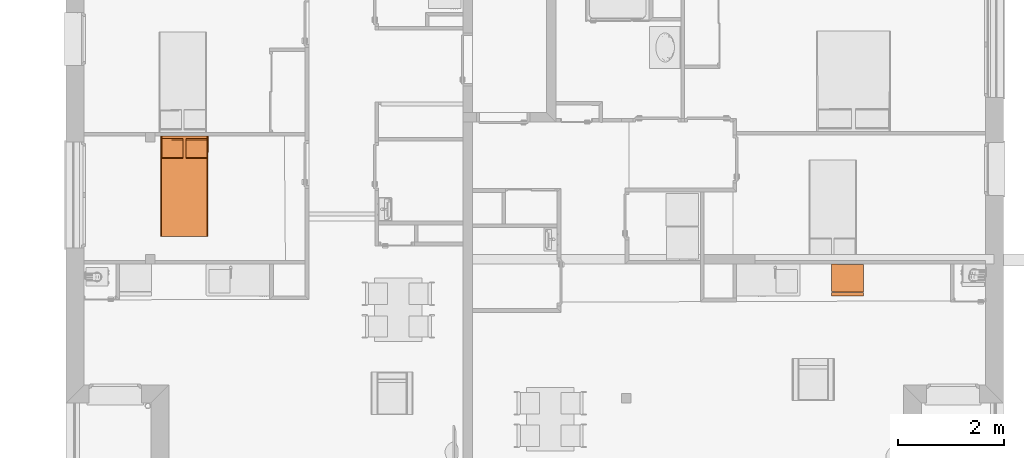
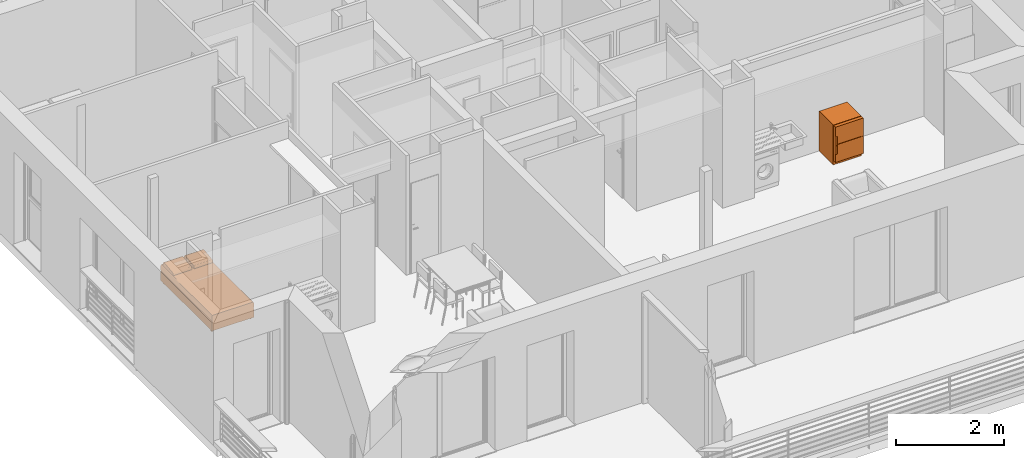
# One storey, part 148 of 171: 2 proxies.
"""IFC2X3 building model written with IfcOpenShell, lengths in millimetres."""

from ifc_helpers import new_model, entity, si_unit, converted_unit, derived_unit, money_unit, direction, frame, origin_with_axes, place, context, subcontext, project, spatial, open_shell, faceted_brep, surface_model, source, transform, mapped, type_object, element, save


model = new_model("IFC2X3")

# Units and contexts
model_context = context("Model", 3, precision=0.01, world=origin_with_axes(), true_north=direction((0.0, 1.0)))
body_context = subcontext(model_context, "Body", "Model", "MODEL_VIEW")
ifc_project = project(units=[si_unit("LENGTHUNIT", "METRE", prefix="MILLI"), si_unit("AREAUNIT", "SQUARE_METRE"), si_unit("VOLUMEUNIT", "CUBIC_METRE"), converted_unit("PLANEANGLEUNIT", "DEGREE", entity("IfcPlaneAngleMeasure", 0.0174532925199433), si_unit("PLANEANGLEUNIT", "RADIAN"), dimensions=[0, 0, 0, 0, 0, 0, 0]), money_unit("USD"), converted_unit("TIMEUNIT", "Year", entity("IfcTimeMeasure", 31557600.0), si_unit("TIMEUNIT", "SECOND"), dimensions=[0, 0, 1, 0, 0, 0, 0]), si_unit("MASSUNIT", "GRAM", prefix="KILO"), si_unit("THERMODYNAMICTEMPERATUREUNIT", "DEGREE_CELSIUS"), si_unit("LUMINOUSINTENSITYUNIT", "LUMEN"), si_unit("ENERGYUNIT", "JOULE", prefix="MEGA"), derived_unit("THERMALCONDUCTANCEUNIT", [(si_unit("POWERUNIT", "WATT"), 1), (si_unit("LENGTHUNIT", "METRE"), -1), (si_unit("THERMODYNAMICTEMPERATUREUNIT", "KELVIN"), -1)]), derived_unit("SPECIFICHEATCAPACITYUNIT", [(si_unit("ENERGYUNIT", "JOULE"), 1), (si_unit("MASSUNIT", "GRAM", prefix="KILO"), -1), (si_unit("THERMODYNAMICTEMPERATUREUNIT", "KELVIN"), -1)]), derived_unit("MASSDENSITYUNIT", [(si_unit("MASSUNIT", "GRAM", prefix="KILO"), 1), (si_unit("VOLUMEUNIT", "CUBIC_METRE"), -1)])], contexts=[model_context])

# Site, building, storey
site_placement = place(None, origin_with_axes())
site = spatial("IfcSite", under=ifc_project, at=site_placement, Name="Site", CompositionType="ELEMENT")
building_placement = place(site_placement, origin_with_axes())
building = spatial("IfcBuilding", under=site, at=building_placement, Name="Bâtiment", CompositionType="ELEMENT")
storey_placement = place(building_placement, frame((0.0, 0.0, 3000.0), z_axis=(0.0, 0.0, 1.0), x_axis=(1.0, 0.0, 0.0)))
storey = spatial("IfcBuildingStorey", under=building, at=storey_placement, Name="rdc", CompositionType="ELEMENT", Elevation=3000.0)

# Proxies
building_element_proxy_type = type_object("IfcBuildingElementProxyType", PredefinedType="NOTDEFINED")
shared_shape_1 = source(origin_with_axes(), body_context, "Body", "SurfaceModel", [
    faceted_brep([(0.0, 80.0, 100.0), (0.0, 80.0, 900.0), (-600.0, 80.0, 900.0), (-600.0, 80.0, 100.0), (0.0, 600.0, 100.0), (0.0, 600.0, 900.0), (-600.0, 600.0, 900.0), (-600.0, 600.0, 100.0)], [[[0, 1, 2, 3]], [[4, 5, 1, 0]], [[1, 5, 6, 2]], [[3, 2, 6, 7]], [[0, 3, 7, 4]], [[7, 6, 5, 4]]]),
    faceted_brep([(0.0, 80.0, 0.0), (0.0, 80.0, 100.0), (-600.0, 80.0, 100.0), (-600.0, 80.0, 0.0), (0.0, 600.0, 0.0), (0.0, 600.0, 100.0), (-600.0, 600.0, 100.0), (-600.0, 600.0, 0.0)], [[[0, 1, 2, 3]], [[4, 5, 1, 0]], [[1, 5, 6, 2]], [[3, 2, 6, 7]], [[0, 3, 7, 4]], [[7, 6, 5, 4]]]),
    faceted_brep([(0.0, 70.0, 100.0), (0.0, 0.0, 100.0), (-600.0, 0.0, 100.0), (-600.0, 70.0, 100.0), (0.0, 70.00000000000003, 494.0), (0.0, 0.0, 494.0), (-600.0, 0.0, 494.0), (-600.0, 70.00000000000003, 494.0)], [[[0, 1, 2, 3]], [[4, 5, 1, 0]], [[1, 5, 6, 2]], [[3, 2, 6, 7]], [[0, 3, 7, 4]], [[7, 6, 5, 4]]]),
    faceted_brep([(0.0, 70.0, 500.0), (0.0, 0.0, 500.0), (-600.0, 0.0, 500.0), (-600.0, 70.0, 500.0), (0.0, 70.00000000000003, 900.0), (0.0, 0.0, 900.0), (-600.0, 0.0, 900.0), (-600.0, 70.00000000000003, 900.0)], [[[0, 1, 2, 3]], [[4, 5, 1, 0]], [[1, 5, 6, 2]], [[3, 2, 6, 7]], [[0, 3, 7, 4]], [[7, 6, 5, 4]]]),
    surface_model("IfcShellBasedSurfaceModel", [(-600.0, -30.0, 300.0000000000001), (-600.0, 0.0, 300.0000000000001), (-600.0, 0.0, 494.0000000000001), (-600.0, -30.0, 494.0000000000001)], [open_shell([[[0, 1, 2, 3]]])]),
    surface_model("IfcShellBasedSurfaceModel", [(-600.0, -30.0, 300.0000000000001), (-570.0, -30.0, 300.0000000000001), (-570.0, -30.0, 494.0000000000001), (-600.0, -30.0, 494.0000000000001)], [open_shell([[[0, 1, 2, 3]]])]),
    surface_model("IfcShellBasedSurfaceModel", [(-600.0, -30.0, 500.0), (-600.0, 0.0, 500.0), (-600.0, 0.0, 700.0), (-600.0, -30.0, 700.0)], [open_shell([[[0, 1, 2, 3]]])]),
    surface_model("IfcShellBasedSurfaceModel", [(-600.0, -30.0, 500.0), (-570.0, -30.0, 500.0), (-570.0, -30.0, 700.0), (-600.0, -30.0, 700.0)], [open_shell([[[0, 1, 2, 3]]])]),
])
proxy_1_placement = place(storey_placement, frame((2231705.292395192, -653016.058235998, 0.0), z_axis=(0.0, 0.0, 1.0), x_axis=(0.9999965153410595, -0.002639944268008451, 0.0)))
element("IfcBuildingElementProxy", 1, at=proxy_1_placement, inside=storey, type_object=building_element_proxy_type, Name="Obj.-019", context=body_context, shape_type="MappedRepresentation", body=[
    mapped(shared_shape_1, transform((0.0, 0.0, 0.0))),
])
shared_shape_2 = source(origin_with_axes(), body_context, "Body", "SurfaceModel", [
    faceted_brep([(400.0, -95.0, 0.0), (400.0, -47.5, 0.0), (425.0000000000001, -47.5, 0.0), (425.0000000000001, -95.0, 0.0), (400.0, -95.0, 50.0), (400.0, -47.5, 50.0), (425.0000000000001, -47.5, 50.0), (425.0000000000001, -95.0, 50.0)], [[[0, 1, 2, 3]], [[0, 4, 5, 1]], [[1, 5, 6, 2]], [[2, 6, 7, 3]], [[3, 7, 4, 0]], [[7, 6, 5, 4]]]),
    faceted_brep([(400.0, -1852.5, 0.0), (400.0, -1805.0, 0.0), (425.0000000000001, -1805.0, 0.0), (425.0000000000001, -1852.5, 0.0), (400.0, -1852.5, 50.0), (400.0, -1805.0, 50.0), (425.0000000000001, -1805.0, 50.0), (425.0000000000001, -1852.5, 50.0)], [[[0, 1, 2, 3]], [[0, 4, 5, 1]], [[1, 5, 6, 2]], [[2, 6, 7, 3]], [[3, 7, 4, 0]], [[7, 6, 5, 4]]]),
    faceted_brep([(-425.0000000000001, -1852.5, 0.0), (-425.0000000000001, -1805.0, 0.0), (-400.0, -1805.0, 0.0), (-400.0, -1852.5, 0.0), (-425.0000000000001, -1852.5, 50.0), (-425.0000000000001, -1805.0, 50.0), (-400.0, -1805.0, 50.0), (-400.0, -1852.5, 50.0)], [[[0, 1, 2, 3]], [[0, 4, 5, 1]], [[1, 5, 6, 2]], [[2, 6, 7, 3]], [[3, 7, 4, 0]], [[7, 6, 5, 4]]]),
    faceted_brep([(-425.0000000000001, -94.99999999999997, 0.0), (-425.0000000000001, -47.49999999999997, 0.0), (-400.0, -47.49999999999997, 0.0), (-400.0, -94.99999999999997, 0.0), (-425.0000000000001, -94.99999999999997, 50.0), (-425.0000000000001, -47.49999999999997, 50.0), (-400.0, -47.49999999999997, 50.0), (-400.0, -94.99999999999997, 50.0)], [[[0, 1, 2, 3]], [[0, 4, 5, 1]], [[1, 5, 6, 2]], [[2, 6, 7, 3]], [[3, 7, 4, 0]], [[7, 6, 5, 4]]]),
    faceted_brep([(450.0, 0.0, 50.0), (450.0, -1900.0, 50.00000000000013), (-450.0, -1900.0, 50.00000000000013), (-450.0, 0.0, 50.0), (450.0, 0.0, 250.0), (450.0, -1900.0, 250.0000000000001), (-450.0, -1900.0, 250.0000000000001), (-450.0, 0.0, 250.0)], [[[0, 1, 2, 3]], [[4, 5, 1, 0]], [[1, 5, 6, 2]], [[3, 2, 6, 7]], [[0, 3, 7, 4]], [[7, 6, 5, 4]]]),
    surface_model("IfcShellBasedSurfaceModel", [(-425.0000000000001, 0.0, 250.0), (-425.0000000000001, -1900.0, 250.0000000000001), (-429.3412044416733, -1900.0, 250.7596123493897), (-429.3412044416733, 0.0, 250.7596123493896), (425.0000000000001, -1900.0, 250.0000000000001), (429.3412044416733, -1900.0, 250.7596123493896), (433.5505035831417, -1900.0, 253.0153689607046), (437.5, -1900.0, 256.6987298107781), (441.0696902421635, -1900.0, 261.6977778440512), (444.1511110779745, -1900.0, 267.8606195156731), (446.650635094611, -1900.0, 275.0000000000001), (448.4923155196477, -1900.0, 282.8989928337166), (449.6201938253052, -1900.0, 291.3175911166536), (450.0, -1900.0, 300.0000000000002), (450.0000000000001, -1900.0, 350.0000000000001), (449.6201938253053, -1900.0, 358.6824088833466), (448.4923155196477, -1900.0, 367.1010071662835), (446.650635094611, -1900.0, 375.0000000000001), (444.1511110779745, -1900.0, 382.1393804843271), (441.0696902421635, -1900.0, 388.302222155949), (437.5000000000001, -1900.0, 393.3012701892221), (433.5505035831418, -1900.0, 396.9846310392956), (429.3412044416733, -1900.0, 399.2403876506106), (425.0000000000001, -1900.0, 400.0000000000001), (-425.0, -1900.0, 400.0000000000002), (-429.3412044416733, -1900.0, 399.2403876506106), (-433.5505035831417, -1900.0, 396.9846310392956), (-437.5, -1900.0, 393.3012701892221), (-441.0696902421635, -1900.0, 388.302222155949), (-444.1511110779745, -1900.0, 382.1393804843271), (-446.6506350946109, -1900.0, 375.0000000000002), (-448.4923155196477, -1900.0, 367.1010071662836), (-449.6201938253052, -1900.0, 358.6824088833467), (-450.0, -1900.0, 350.0000000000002), (-450.0, -1900.0, 300.0000000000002), (-449.6201938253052, -1900.0, 291.3175911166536), (-448.4923155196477, -1900.0, 282.8989928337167), (-446.650635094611, -1900.0, 275.0000000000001), (-444.1511110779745, -1900.0, 267.8606195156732), (-441.0696902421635, -1900.0, 261.6977778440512), (-437.5000000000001, -1900.0, 256.6987298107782), (-433.5505035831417, -1900.0, 253.0153689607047), (-433.5505035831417, 0.0, 253.0153689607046), (425.0000000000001, 0.0, 250.0), (-437.5000000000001, 0.0, 256.698729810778), (-441.0696902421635, 0.0, 261.6977778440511), (-444.1511110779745, 0.0, 267.8606195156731), (-446.650635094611, 0.0, 275.0), (-448.4923155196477, 0.0, 282.8989928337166), (-449.6201938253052, 0.0, 291.3175911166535), (-450.0, 0.0, 300.0000000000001), (-450.0, 0.0, 350.0000000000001), (-449.6201938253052, 0.0, 358.6824088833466), (-448.4923155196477, 0.0, 367.1010071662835), (-446.6506350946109, 0.0, 375.0000000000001), (-444.1511110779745, 0.0, 382.139380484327), (-441.0696902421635, 0.0, 388.3022221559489), (-437.5, 0.0, 393.301270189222), (-433.5505035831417, 0.0, 396.9846310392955), (-429.3412044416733, 0.0, 399.2403876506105), (-425.0, 0.0, 400.0000000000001), (425.0000000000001, 0.0, 400.0), (429.3412044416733, 0.0, 399.2403876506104), (433.5505035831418, 0.0, 396.9846310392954), (437.5000000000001, 0.0, 393.301270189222), (441.0696902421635, 0.0, 388.3022221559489), (444.1511110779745, 0.0, 382.139380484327), (446.650635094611, 0.0, 375.0), (448.4923155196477, 0.0, 367.1010071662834), (449.6201938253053, 0.0, 358.6824088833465), (450.0000000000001, 0.0, 350.0), (450.0, 0.0, 300.0000000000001), (449.6201938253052, 0.0, 291.3175911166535), (448.4923155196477, 0.0, 282.8989928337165), (446.650635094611, 0.0, 275.0), (444.1511110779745, 0.0, 267.860619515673), (441.0696902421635, 0.0, 261.6977778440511), (437.5, 0.0, 256.698729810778), (433.5505035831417, 0.0, 253.0153689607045), (429.3412044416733, 0.0, 250.7596123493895)], [open_shell([[[0, 1, 2, 3]], [[4, 5, 6, 7, 8, 9, 10, 11, 12, 13, 14, 15, 16, 17, 18, 19, 20, 21, 22, 23, 24, 25, 26, 27, 28, 29, 30, 31, 32, 33, 34, 35, 36, 37, 38, 39, 40, 41, 2, 1]], [[3, 2, 41, 42]], [[43, 0, 3, 42, 44, 45, 46, 47, 48, 49, 50, 51, 52, 53, 54, 55, 56, 57, 58, 59, 60, 61, 62, 63, 64, 65, 66, 67, 68, 69, 70, 71, 72, 73, 74, 75, 76, 77, 78, 79]], [[79, 5, 4, 43]], [[78, 6, 5, 79]], [[77, 7, 6, 78]], [[76, 8, 7, 77]], [[75, 9, 8, 76]], [[74, 10, 9, 75]], [[73, 11, 10, 74]], [[72, 12, 11, 73]], [[71, 13, 12, 72]], [[70, 14, 13, 71]], [[69, 15, 14, 70]], [[68, 16, 15, 69]], [[67, 17, 16, 68]], [[66, 18, 17, 67]], [[65, 19, 18, 66]], [[64, 20, 19, 65]], [[63, 21, 20, 64]], [[62, 22, 21, 63]], [[61, 23, 22, 62]], [[60, 24, 23, 61]], [[59, 25, 24, 60]], [[58, 26, 25, 59]], [[57, 27, 26, 58]], [[56, 28, 27, 57]], [[55, 29, 28, 56]], [[54, 30, 29, 55]], [[53, 31, 30, 54]], [[52, 32, 31, 53]], [[51, 33, 32, 52]], [[50, 34, 33, 51]], [[49, 35, 34, 50]], [[48, 36, 35, 49]], [[47, 37, 36, 48]], [[46, 38, 37, 47]], [[45, 39, 38, 46]], [[44, 40, 39, 45]], [[42, 41, 40, 44]]])]),
    faceted_brep([(-24.99999999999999, -47.49999999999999, 400.0), (-425.0, -47.50000000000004, 400.0000000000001), (-425.0, -47.50000000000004, 443.4000000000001), (-24.99999999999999, -47.49999999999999, 443.4), (-24.99999999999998, -427.5, 400.0), (-425.0, -427.5, 400.0000000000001), (-425.0, -427.6960812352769, 408.6954428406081), (-425.0, -426.4675711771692, 417.2966661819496), (-425.0, -423.8511300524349, 425.5469991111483), (-425.0, -419.924835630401, 433.2002417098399), (-425.0, -414.8058532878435, 440.0280119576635), (-425.0, -408.6469396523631, 445.826560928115), (-425.0, -401.6318841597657, 450.4228529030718), (-425.0, -393.9700245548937, 453.6797289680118), (-425.0, -385.89, 455.5000000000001), (-425.0, -100.8900000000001, 493.0000000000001), (-425.0, -92.85488048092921, 493.3370808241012), (-425.0, -84.88093291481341, 492.2422169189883), (-425.0, -77.19681007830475, 489.7468034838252), (-425.0, -70.02285403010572, 485.922396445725), (-425.0, -63.56477780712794, 480.878660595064), (-425.0, -58.00776660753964, 474.7602249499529), (-425.0, -53.51116760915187, 467.7425355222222), (-425.0, -50.20392069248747, 460.0268244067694), (-425.0, -48.18086109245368, 451.8343394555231), (-24.99999999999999, -48.18086109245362, 451.834339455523), (-24.99999999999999, -50.20392069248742, 460.0268244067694), (-24.99999999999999, -53.51116760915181, 467.7425355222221), (-24.99999999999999, -58.00776660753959, 474.7602249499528), (-24.99999999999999, -63.56477780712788, 480.878660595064), (-24.99999999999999, -70.02285403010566, 485.922396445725), (-24.99999999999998, -77.19681007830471, 489.7468034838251), (-24.99999999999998, -84.88093291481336, 492.2422169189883), (-24.99999999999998, -92.85488048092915, 493.3370808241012), (-24.99999999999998, -100.89, 493.0000000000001), (-24.99999999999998, -385.89, 455.5), (-24.99999999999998, -393.9700245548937, 453.6797289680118), (-24.99999999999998, -401.6318841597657, 450.4228529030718), (-24.99999999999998, -408.6469396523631, 445.826560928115), (-24.99999999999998, -414.8058532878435, 440.0280119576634), (-24.99999999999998, -419.9248356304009, 433.2002417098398), (-24.99999999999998, -423.8511300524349, 425.5469991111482), (-24.99999999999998, -426.4675711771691, 417.2966661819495), (-24.99999999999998, -427.6960812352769, 408.695442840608)], [[[0, 1, 2, 3]], [[4, 5, 1, 0]], [[1, 5, 6, 7, 8, 9, 10, 11, 12, 13, 14, 15, 16, 17, 18, 19, 20, 21, 22, 23, 24, 2]], [[3, 2, 24, 25]], [[0, 3, 25, 26, 27, 28, 29, 30, 31, 32, 33, 34, 35, 36, 37, 38, 39, 40, 41, 42, 43, 4]], [[43, 6, 5, 4]], [[42, 7, 6, 43]], [[41, 8, 7, 42]], [[40, 9, 8, 41]], [[39, 10, 9, 40]], [[38, 11, 10, 39]], [[37, 12, 11, 38]], [[36, 13, 12, 37]], [[35, 14, 13, 36]], [[34, 15, 14, 35]], [[33, 16, 15, 34]], [[32, 17, 16, 33]], [[31, 18, 17, 32]], [[30, 19, 18, 31]], [[29, 20, 19, 30]], [[28, 21, 20, 29]], [[27, 22, 21, 28]], [[26, 23, 22, 27]], [[25, 24, 23, 26]]]),
    faceted_brep([(425.0000000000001, -47.49999999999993, 399.9999999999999), (25.00000000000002, -47.49999999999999, 400.0), (25.00000000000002, -47.49999999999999, 443.4), (425.0000000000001, -47.49999999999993, 443.4), (425.0000000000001, -427.4999999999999, 399.9999999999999), (25.00000000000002, -427.4999999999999, 400.0), (25.00000000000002, -427.6960812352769, 408.695442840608), (25.00000000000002, -426.4675711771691, 417.2966661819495), (25.00000000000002, -423.8511300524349, 425.5469991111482), (25.00000000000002, -419.9248356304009, 433.2002417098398), (25.00000000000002, -414.8058532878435, 440.0280119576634), (25.00000000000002, -408.6469396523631, 445.826560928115), (25.00000000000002, -401.6318841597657, 450.4228529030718), (25.00000000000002, -393.9700245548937, 453.6797289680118), (25.00000000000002, -385.8899999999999, 455.5), (25.00000000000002, -100.89, 493.0000000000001), (25.00000000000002, -92.85488048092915, 493.3370808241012), (25.00000000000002, -84.88093291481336, 492.2422169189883), (25.00000000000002, -77.19681007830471, 489.7468034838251), (25.00000000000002, -70.02285403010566, 485.922396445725), (25.00000000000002, -63.56477780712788, 480.878660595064), (25.00000000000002, -58.00776660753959, 474.7602249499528), (25.00000000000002, -53.51116760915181, 467.7425355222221), (25.00000000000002, -50.20392069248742, 460.0268244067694), (25.00000000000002, -48.18086109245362, 451.834339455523), (425.0000000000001, -48.18086109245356, 451.834339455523), (425.0000000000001, -50.20392069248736, 460.0268244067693), (425.0000000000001, -53.51116760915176, 467.7425355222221), (425.0000000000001, -58.00776660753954, 474.7602249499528), (425.0000000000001, -63.56477780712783, 480.8786605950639), (425.0000000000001, -70.0228540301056, 485.9223964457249), (425.0000000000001, -77.19681007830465, 489.7468034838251), (425.0000000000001, -84.8809329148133, 492.2422169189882), (425.0000000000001, -92.8548804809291, 493.3370808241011), (425.0000000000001, -100.89, 493.0), (425.0000000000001, -385.8899999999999, 455.4999999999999), (425.0000000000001, -393.9700245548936, 453.6797289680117), (425.0000000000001, -401.6318841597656, 450.4228529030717), (425.0000000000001, -408.646939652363, 445.8265609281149), (425.0000000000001, -414.8058532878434, 440.0280119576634), (425.0000000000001, -419.9248356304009, 433.2002417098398), (425.0000000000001, -423.8511300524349, 425.5469991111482), (425.0000000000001, -426.4675711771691, 417.2966661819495), (425.0000000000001, -427.6960812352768, 408.6954428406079)], [[[0, 1, 2, 3]], [[4, 5, 1, 0]], [[1, 5, 6, 7, 8, 9, 10, 11, 12, 13, 14, 15, 16, 17, 18, 19, 20, 21, 22, 23, 24, 2]], [[3, 2, 24, 25]], [[0, 3, 25, 26, 27, 28, 29, 30, 31, 32, 33, 34, 35, 36, 37, 38, 39, 40, 41, 42, 43, 4]], [[43, 6, 5, 4]], [[42, 7, 6, 43]], [[41, 8, 7, 42]], [[40, 9, 8, 41]], [[39, 10, 9, 40]], [[38, 11, 10, 39]], [[37, 12, 11, 38]], [[36, 13, 12, 37]], [[35, 14, 13, 36]], [[34, 15, 14, 35]], [[33, 16, 15, 34]], [[32, 17, 16, 33]], [[31, 18, 17, 32]], [[30, 19, 18, 31]], [[29, 20, 19, 30]], [[28, 21, 20, 29]], [[27, 22, 21, 28]], [[26, 23, 22, 27]], [[25, 24, 23, 26]]]),
])
proxy_2_placement = place(storey_placement, frame((2218870.566280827, -649991.1808041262, 0.0), z_axis=(0.0, 0.0, 1.0), x_axis=(0.9999996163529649, -0.0008759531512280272, 0.0)))
element("IfcBuildingElementProxy", 2, at=proxy_2_placement, inside=storey, type_object=building_element_proxy_type, Name="Obj.-003", context=body_context, shape_type="MappedRepresentation", body=[
    mapped(shared_shape_2, transform((0.0, 0.0, 0.0))),
])

save(model, "model.ifc")
